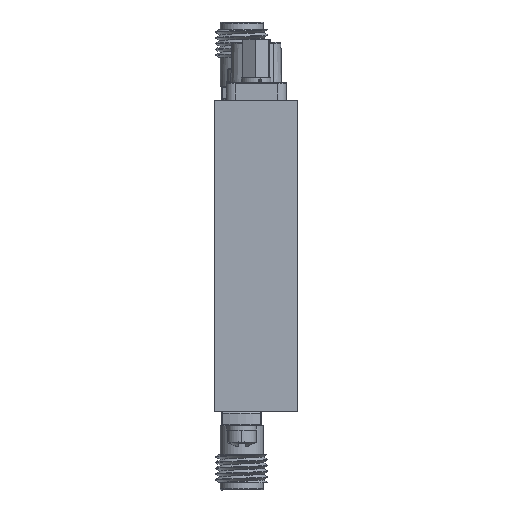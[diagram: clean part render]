
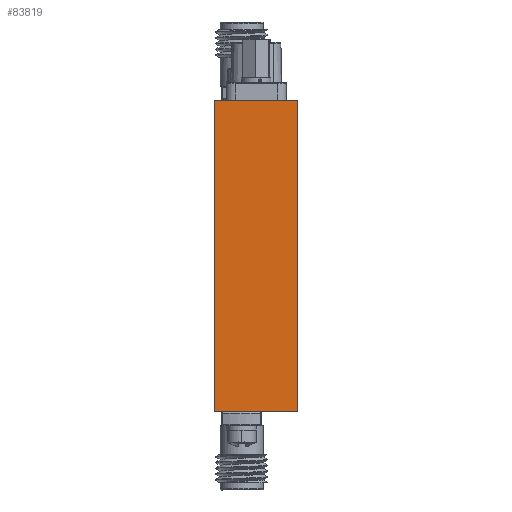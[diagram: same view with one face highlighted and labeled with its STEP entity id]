
A CAD part, left-side view. The second image highlights one B-rep face of the part: STEP entity #83819.
In plain terms, the highlighted planar face has unit normal (-1, 0, 0).
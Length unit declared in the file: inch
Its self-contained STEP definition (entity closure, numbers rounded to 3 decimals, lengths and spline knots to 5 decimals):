
#715 = VERTEX_POINT ( 'NONE', #105190 ) ;
#1404 = LINE ( 'NONE', #33868, #4683 ) ;
#3148 = FACE_OUTER_BOUND ( 'NONE', #43541, .T. ) ;
#4155 = CARTESIAN_POINT ( 'NONE',  ( 0., 0.035, 0. ) ) ;
#4186 = CARTESIAN_POINT ( 'NONE',  ( 0., 0.035, -1.5 ) ) ;
#4683 = VECTOR ( 'NONE', #58289, 39.37008 ) ;
#10069 = CARTESIAN_POINT ( 'NONE',  ( 0., 0.035, -1.5 ) ) ;
#13826 = LINE ( 'NONE', #4186, #62739 ) ;
#19586 = ORIENTED_EDGE ( 'NONE', *, *, #41355, .F. ) ;
#20690 = LINE ( 'NONE', #4155, #89565 ) ;
#22075 = EDGE_CURVE ( 'NONE', #76504, #715, #85098, .T. ) ;
#23194 = VERTEX_POINT ( 'NONE', #37604 ) ;
#28239 = VECTOR ( 'NONE', #35649, 39.37008 ) ;
#33868 = CARTESIAN_POINT ( 'NONE',  ( 0., -0.365, -1.5 ) ) ;
#35649 = DIRECTION ( 'NONE',  ( 0., -1., 0. ) ) ;
#37604 = CARTESIAN_POINT ( 'NONE',  ( 0., -0.365, 0. ) ) ;
#41355 = EDGE_CURVE ( 'NONE', #76504, #80481, #13826, .T. ) ;
#42950 = ORIENTED_EDGE ( 'NONE', *, *, #80531, .F. ) ;
#43541 = EDGE_LOOP ( 'NONE', ( #101368, #42950, #19586, #101453 ) ) ;
#58289 = DIRECTION ( 'NONE',  ( 0., 0., 1. ) ) ;
#62739 = VECTOR ( 'NONE', #69046, 39.37008 ) ;
#66928 = PLANE ( 'NONE',  #85250 ) ;
#69046 = DIRECTION ( 'NONE',  ( 0., 0., 1. ) ) ;
#74902 = DIRECTION ( 'NONE',  ( 1., 0., 0. ) ) ;
#76504 = VERTEX_POINT ( 'NONE', #83258 ) ;
#78613 = DIRECTION ( 'NONE',  ( 0., 0., -1. ) ) ;
#80481 = VERTEX_POINT ( 'NONE', #91433 ) ;
#80531 = EDGE_CURVE ( 'NONE', #80481, #23194, #20690, .T. ) ;
#83258 = CARTESIAN_POINT ( 'NONE',  ( 0., 0.035, -1.5 ) ) ;
#83819 = ADVANCED_FACE ( 'NONE', ( #3148 ), #66928, .F. ) ;
#85098 = LINE ( 'NONE', #94621, #28239 ) ;
#85250 = AXIS2_PLACEMENT_3D ( 'NONE', #10069, #74902, #78613 ) ;
#85549 = EDGE_CURVE ( 'NONE', #715, #23194, #1404, .T. ) ;
#89565 = VECTOR ( 'NONE', #100482, 39.37008 ) ;
#91433 = CARTESIAN_POINT ( 'NONE',  ( 0., 0.035, 0. ) ) ;
#94621 = CARTESIAN_POINT ( 'NONE',  ( 0., 0.035, -1.5 ) ) ;
#100482 = DIRECTION ( 'NONE',  ( 0., -1., 0. ) ) ;
#101368 = ORIENTED_EDGE ( 'NONE', *, *, #85549, .T. ) ;
#101453 = ORIENTED_EDGE ( 'NONE', *, *, #22075, .T. ) ;
#105190 = CARTESIAN_POINT ( 'NONE',  ( 0., -0.365, -1.5 ) ) ;
